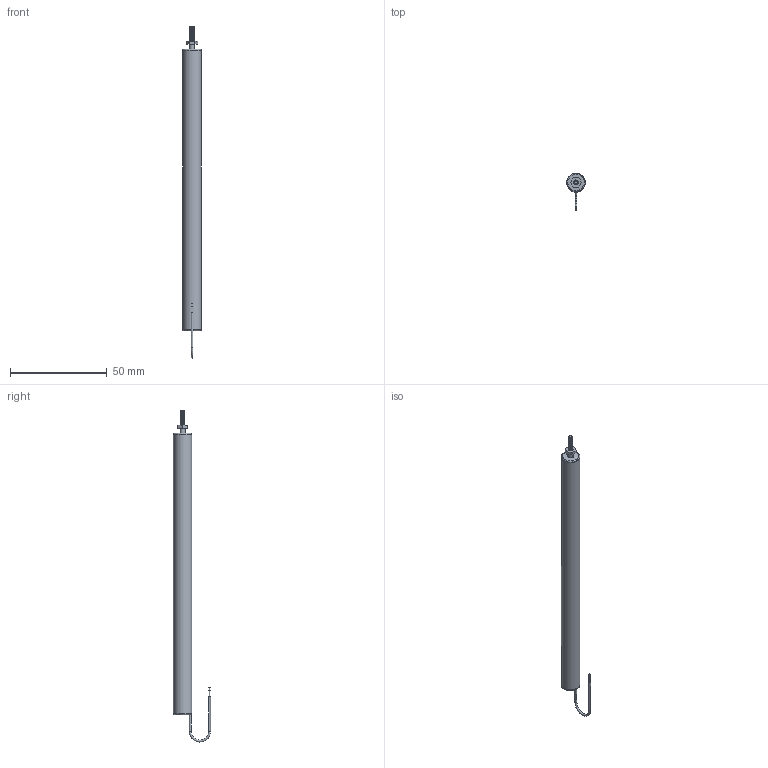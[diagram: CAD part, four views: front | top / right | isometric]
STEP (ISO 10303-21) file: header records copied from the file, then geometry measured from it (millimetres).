
FILE_DESCRIPTION(/* description */ (''),/* implementation_level */ '2;1');
FILE_NAME(/* name */ 'ILPS-9.5Z-100-A-00-YY-S (wrapped).stp',/* time_stamp */ '2024-08-21T13:45:14-04:00',/* author */ ('Justin'),/* organization */ (''),/* preprocessor_version */ 'ST-DEVELOPER v20',/* originating_system */ 'Autodesk Inventor 2025',/* authorisation */ '');
FILE_SCHEMA (('AUTOMOTIVE_DESIGN { 1 0 10303 214 3 1 1 }','MODEL_BASED_INTEGRATED_MANUFACTURING_SCHEMA'));
Length unit declared in the file: inch
Products named in the file (5): ILPS-9.5Z-4.00-A-00-YY-S SW; ILPS-9.5Z-4.00-A-00-YY-S Body SW; Wire; BS 4183 - M2.5; Target Rod
Assembly tree (4 placements, depth 2):
  ILPS-9.5Z-4.00-A-00-YY-S SW
    ILPS-9.5Z-4.00-A-00-YY-S Body SW
    Wire
    BS 4183 - M2.5
    Target Rod
Bounding box: 9.53 x 19.15 x 171.35 mm (x, y, z)
Volume: 1302.4 mm3; surface area: 12708.1 mm2
Topology: 7 solids, 7 shells, 70 faces, 145 edges, 94 vertices
Faces by surface type: plane 37, cylinder 23, cone 4, torus 3, bspline 3
Full cylindrical faces by diameter (mm): 0.203 x10, 1 x2, 2.013 x1, 2.438 x1, 2.667 x1, 3.175 x3, 9.398 x1, 9.525 x2
Entity records: 3983 total; most frequent: CARTESIAN_POINT 2140, DIRECTION 367, ORIENTED_EDGE 290, AXIS2_PLACEMENT_3D 158, EDGE_CURVE 145, VERTEX_POINT 94, EDGE_LOOP 85, CIRCLE 82
